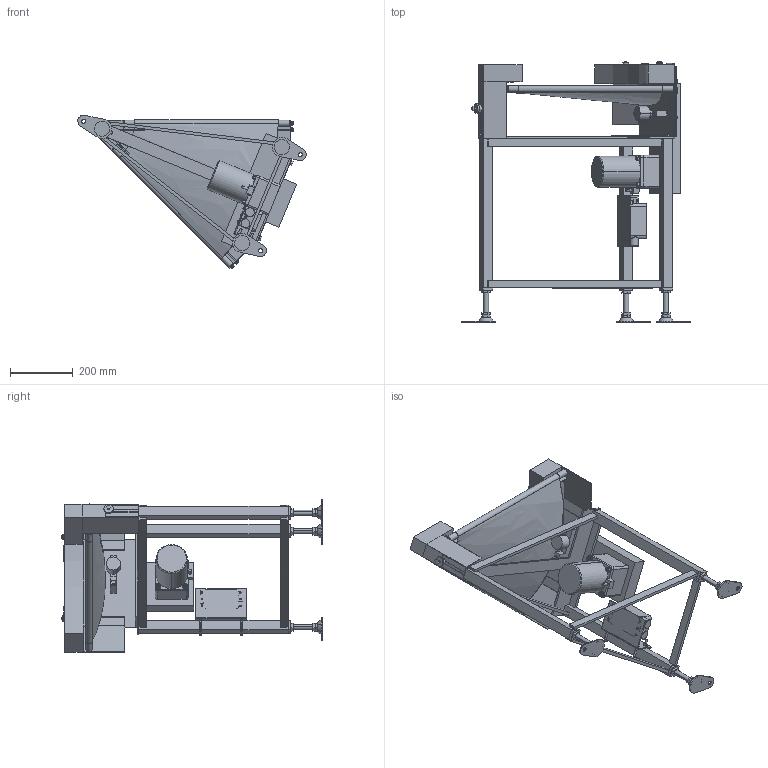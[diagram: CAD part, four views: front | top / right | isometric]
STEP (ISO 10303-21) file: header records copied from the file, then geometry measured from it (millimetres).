
FILE_DESCRIPTION( (''), '2;1');
FILE_NAME ('FFBC3-UD-309-400-45°-L-K-60.stp','2025-02-17T15:15:03',(''),(''),'spGate 20.6.2 (****-****-****-****)','','');
FILE_SCHEMA (('AUTOMOTIVE_DESIGN'));
Length unit declared in the file: millimetre
Products named in the file (69): NewModel; TEMP_X_T-prt0; TEMP_X_T-prt1; TEMP_X_T-prt2; TEMP_X_T-prt3; TEMP_X_T-prt4; TEMP_X_T-prt5; TEMP_X_T-prt6; TEMP_X_T-prt7; TEMP_X_T-prt8; TEMP_X_T-prt9; TEMP_X_T-prt10; TEMP_X_T-prt11; TEMP_X_T-prt12; TEMP_X_T-prt13; TEMP_X_T-prt14; TEMP_X_T-prt15; TEMP_X_T-prt16; TEMP_X_T-prt17; TEMP_X_T-prt18; TEMP_X_T-prt19; TEMP_X_T-prt20; TEMP_X_T-prt21; TEMP_X_T-prt22; TEMP_X_T-prt23; TEMP_X_T-prt24; TEMP_X_T-prt25; TEMP_X_T-prt26; TEMP_X_T-prt27; TEMP_X_T-prt28; TEMP_X_T-prt29; TEMP_X_T-prt30; TEMP_X_T-prt31; TEMP_X_T-prt32; TEMP_X_T-prt33; TEMP_X_T-prt34; TEMP_X_T-prt35; TEMP_X_T-prt36; TEMP_X_T-prt37; TEMP_X_T-prt38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
Assembly tree (68 placements, depth 2):
  NewModel
    TEMP_X_T-prt0
    TEMP_X_T-prt1
    TEMP_X_T-prt2
    TEMP_X_T-prt3
    TEMP_X_T-prt4
    TEMP_X_T-prt5
    TEMP_X_T-prt6
    TEMP_X_T-prt7
    TEMP_X_T-prt8
    TEMP_X_T-prt9
    TEMP_X_T-prt10
    TEMP_X_T-prt11
    TEMP_X_T-prt12
    TEMP_X_T-prt13
    TEMP_X_T-prt14
    TEMP_X_T-prt15
    TEMP_X_T-prt16
    TEMP_X_T-prt17
    TEMP_X_T-prt18
    TEMP_X_T-prt19
    TEMP_X_T-prt20
    TEMP_X_T-prt21
    TEMP_X_T-prt22
    TEMP_X_T-prt23
    TEMP_X_T-prt24
    TEMP_X_T-prt25
    TEMP_X_T-prt26
    TEMP_X_T-prt27
    TEMP_X_T-prt28
    TEMP_X_T-prt29
    TEMP_X_T-prt30
    TEMP_X_T-prt31
    TEMP_X_T-prt32
    TEMP_X_T-prt33
    TEMP_X_T-prt34
    TEMP_X_T-prt35
    TEMP_X_T-prt36
    TEMP_X_T-prt37
    TEMP_X_T-prt38
    TEMP_X_T-prt39
    TEMP_X_T-prt40
    TEMP_X_T-prt41
    TEMP_X_T-prt42
    TEMP_X_T-prt43
    TEMP_X_T-prt44
    TEMP_X_T-prt45
    TEMP_X_T-prt46
    TEMP_X_T-prt47
    TEMP_X_T-prt48
    TEMP_X_T-prt49
    TEMP_X_T-prt50
    TEMP_X_T-prt51
    TEMP_X_T-prt52
    TEMP_X_T-prt53
    TEMP_X_T-prt54
    TEMP_X_T-prt55
    TEMP_X_T-prt56
    TEMP_X_T-prt57
    TEMP_X_T-prt58
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Bounding box: 725.65 x 827.92 x 487.84 mm (x, y, z)
Volume: 12200626.4 mm3; surface area: 2399364.1 mm2
Topology: 68 solids, 68 shells, 1221 faces, 2787 edges, 1777 vertices
Faces by surface type: plane 726, cylinder 331, bspline 160, sphere 4
Entity records: 62809 total; most frequent: CARTESIAN_POINT 11066, ORIENTED_EDGE 5542, DIRECTION 5493, COLOUR_RGB 4060, PRESENTATION_STYLE_ASSIGNMENT 4060, STYLED_ITEM 4060, EDGE_CURVE 2771, DRAUGHTING_PRE_DEFINED_CURVE_FONT 2771
